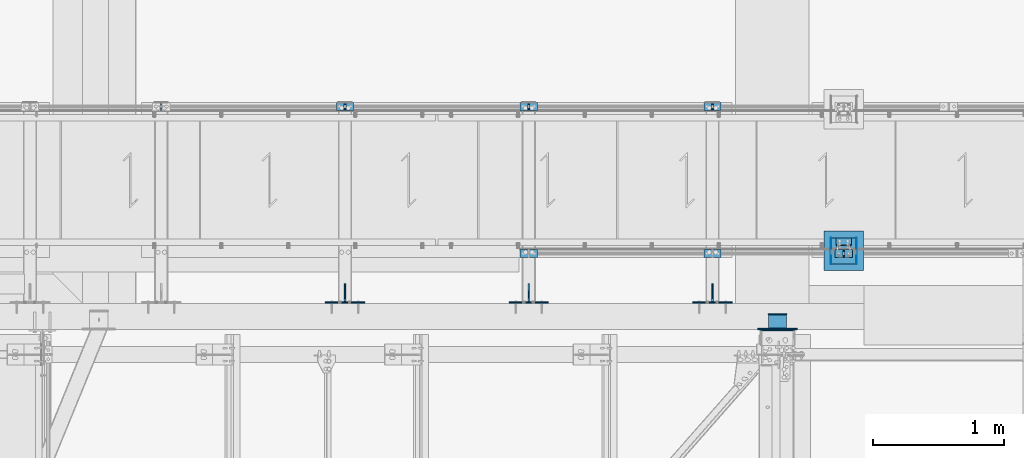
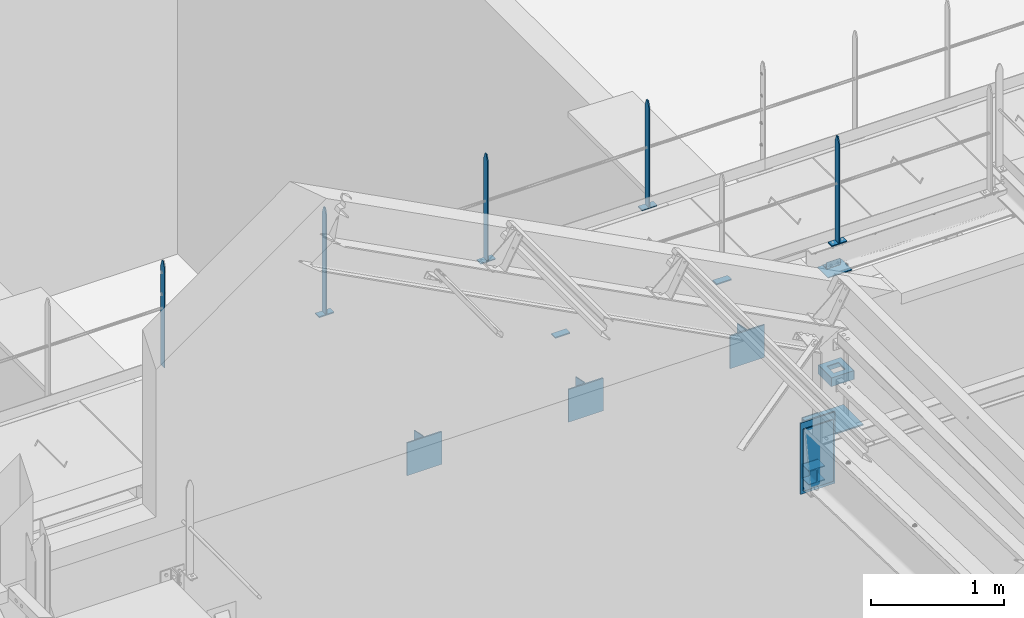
# One storey, part 97 of 362: 29 beams, 11 elements without a shape of their own.
"""IFC2X3 building model written with IfcOpenShell, lengths in millimetres."""

from ifc_helpers import new_model, si_unit, frame, origin_with_axes, origin_2d_with_axis, place, context, subcontext, project, spatial, polyline, rectangle, i_section, l_section, u_section, outline, extrude, boolean, clip, halfspace, material, type_object, element, aggregate, save


model = new_model("IFC2X3")

# Units and contexts
model_context = context("Model", 3, precision=1e-05, world=origin_with_axes())
body_context = subcontext(model_context, "Body", "Model", "MODEL_VIEW")
ifc_project = project(units=[si_unit("LENGTHUNIT", "METRE", prefix="MILLI"), si_unit("AREAUNIT", "SQUARE_METRE"), si_unit("VOLUMEUNIT", "CUBIC_METRE"), si_unit("MASSUNIT", "GRAM", prefix="KILO"), si_unit("TIMEUNIT", "SECOND"), si_unit("PLANEANGLEUNIT", "RADIAN"), si_unit("SOLIDANGLEUNIT", "STERADIAN"), si_unit("THERMODYNAMICTEMPERATUREUNIT", "DEGREE_CELSIUS"), si_unit("LUMINOUSINTENSITYUNIT", "LUMEN")], contexts=[model_context])

# Site, building, storey
site_placement = place(None, origin_with_axes())
site = spatial("IfcSite", under=ifc_project, at=site_placement, Name="Undefined", CompositionType="ELEMENT")
building_placement = place(site_placement, origin_with_axes())
building = spatial("IfcBuilding", under=site, at=building_placement, Name="Undefined", CompositionType="ELEMENT")
storey_placement = place(building_placement, origin_with_axes())
storey = spatial("IfcBuildingStorey", under=building, at=storey_placement, Name="Undefined", CompositionType="ELEMENT", Elevation=0.0)

# Assembly, beams
assembly_1_placement = place(storey_placement, origin_with_axes())
assembly_1 = element("IfcElementAssembly", 1, at=assembly_1_placement, inside=storey, Name="MAIN COURANTE", AssemblyPlace="NOTDEFINED", PredefinedType="NOTDEFINED")
ifc_material_1 = material(Name="Undefined/S235-E24")
beam_type_1 = type_object("IfcBeamType", Name="PL10*60", PredefinedType="NOTDEFINED")
beam_1_placement = place(assembly_1_placement, frame((20119.9961849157, 15970.0000882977, 8705.00000001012), z_axis=(0.0, -1.0, 0.0), x_axis=(-1.0, 0.0, 0.0)))
beam_1 = element("IfcBeam", 2, at=beam_1_placement, type_object=beam_type_1, material=ifc_material_1, Name="PLATINE", ObjectType="PL10*60", context=body_context, shape_type="SweptSolid", body=[
    extrude(rectangle(XDim=10.0, YDim=60.0, at=origin_2d_with_axis()), frame((130.0, 0.0, 0.0), z_axis=(-1.0, 0.0, 0.0), x_axis=(0.0, -1.0, 0.0)), (0.0, 0.0, 1.0), 130.0),
])
beam_2_placement = place(assembly_1_placement, frame((20054.9961849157, 15970.0000882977, 9677.59999847), z_axis=(0.0, 1.0, 0.0), x_axis=(0.0, 0.0, -1.0)))
beam_2 = element("IfcBeam", 3, at=beam_2_placement, type_object=beam_type_1, material=ifc_material_1, Name="MONTANT", ObjectType="PL10*60", context=body_context, shape_type="Clipping", body=[
    clip(clip(extrude(rectangle(XDim=10.0, YDim=60.0, at=origin_2d_with_axis()), frame((967.59999845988, 0.0, 0.0), z_axis=(-1.0, 0.0, 0.0), x_axis=(0.0, -1.0, 0.0)), (0.0, 0.0, 1.0), 967.6), halfspace(frame((-120.0, -5.0, -30.0), z_axis=(-0.316227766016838, 0.0, 0.948683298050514), x_axis=(0.0, 1.0, 0.0)), False)), halfspace(frame((60.0, -5.0, -30.0), z_axis=(-0.316227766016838, 0.0, -0.948683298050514), x_axis=(0.0, 1.0, 0.0)), False)),
])
beam_3_placement = place(assembly_1_placement, frame((19119.9961849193, 15970.0000882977, 8705.00000001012), z_axis=(0.0, -1.0, 0.0), x_axis=(-1.0, 0.0, 0.0)))
beam_3 = element("IfcBeam", 4, at=beam_3_placement, type_object=beam_type_1, material=ifc_material_1, Name="PLATINE", ObjectType="PL10*60", context=body_context, shape_type="SweptSolid", body=[
    extrude(rectangle(XDim=10.0, YDim=60.0, at=origin_2d_with_axis()), frame((130.0, 0.0, 0.0), z_axis=(-1.0, 0.0, 0.0), x_axis=(0.0, -1.0, 0.0)), (0.0, 0.0, 1.0), 130.0),
])
aggregate(assembly_1, [beam_1, beam_2, beam_3])

# Assembly, beam
assembly_2_placement = place(storey_placement, origin_with_axes())
assembly_2 = element("IfcElementAssembly", 5, at=assembly_2_placement, inside=storey, AssemblyPlace="NOTDEFINED", PredefinedType="NOTDEFINED")
beam_4_placement = place(assembly_2_placement, frame((17719.9961849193, 15970.0000882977, 8705.00000001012), z_axis=(0.0, -1.0, 0.0), x_axis=(-1.0, 0.0, 0.0)))
beam_4 = element("IfcBeam", 6, at=beam_4_placement, type_object=beam_type_1, material=ifc_material_1, Name="PLATINE", ObjectType="PL10*60", context=body_context, shape_type="SweptSolid", body=[
    extrude(rectangle(XDim=10.0, YDim=60.0, at=origin_2d_with_axis()), frame((130.0, 0.0, 0.0), z_axis=(-1.0, 0.0, 0.0), x_axis=(0.0, -1.0, 0.0)), (0.0, 0.0, 1.0), 130.0),
])
aggregate(assembly_2, [beam_4])

# Assembly, beams
assembly_3_placement = place(storey_placement, origin_with_axes())
assembly_3 = element("IfcElementAssembly", 7, at=assembly_3_placement, inside=storey, Name="MAIN COURANTE", AssemblyPlace="NOTDEFINED", PredefinedType="NOTDEFINED")
beam_5_placement = place(assembly_3_placement, frame((19119.9961849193, 17089.9938659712, 8705.00000001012), z_axis=(0.0, 1.0, 0.0), x_axis=(-1.0, 0.0, 0.0)))
beam_5 = element("IfcBeam", 8, at=beam_5_placement, type_object=beam_type_1, material=ifc_material_1, Name="PLATINE", ObjectType="PL10*60", context=body_context, shape_type="SweptSolid", body=[
    extrude(rectangle(XDim=10.0, YDim=60.0, at=origin_2d_with_axis()), frame((130.0, 0.0, 0.0), z_axis=(-1.0, 0.0, 0.0), x_axis=(0.0, -1.0, 0.0)), (0.0, 0.0, 1.0), 130.0),
])
beam_6_placement = place(assembly_3_placement, frame((17719.9961849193, 17089.9938659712, 8705.00000001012), z_axis=(0.0, 1.0, 0.0), x_axis=(-1.0, 0.0, 0.0)))
beam_6 = element("IfcBeam", 9, at=beam_6_placement, type_object=beam_type_1, material=ifc_material_1, Name="PLATINE", ObjectType="PL10*60", context=body_context, shape_type="SweptSolid", body=[
    extrude(rectangle(XDim=10.0, YDim=60.0, at=origin_2d_with_axis()), frame((130.0, 0.0, 0.0), z_axis=(-1.0, 0.0, 0.0), x_axis=(0.0, -1.0, 0.0)), (0.0, 0.0, 1.0), 130.0),
])
beam_7_placement = place(assembly_3_placement, frame((16319.9961849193, 17089.9938659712, 8705.00000001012), z_axis=(0.0, 1.0, 0.0), x_axis=(-1.0, 0.0, 0.0)))
beam_7 = element("IfcBeam", 10, at=beam_7_placement, type_object=beam_type_1, material=ifc_material_1, Name="PLATINE", ObjectType="PL10*60", context=body_context, shape_type="SweptSolid", body=[
    extrude(rectangle(XDim=10.0, YDim=60.0, at=origin_2d_with_axis()), frame((130.0, 0.0, 0.0), z_axis=(-1.0, 0.0, 0.0), x_axis=(0.0, -1.0, 0.0)), (0.0, 0.0, 1.0), 130.0),
])
beam_8_placement = place(assembly_3_placement, frame((16254.9961849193, 17089.9938659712, 9677.59999847), z_axis=(0.0, -1.0, 0.0), x_axis=(0.0, 0.0, -1.0)))
beam_8 = element("IfcBeam", 11, at=beam_8_placement, type_object=beam_type_1, material=ifc_material_1, Name="MONTANT", ObjectType="PL10*60", context=body_context, shape_type="Clipping", body=[
    clip(clip(extrude(rectangle(XDim=10.0, YDim=60.0, at=origin_2d_with_axis()), frame((967.59999845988, 0.0, 0.0), z_axis=(-1.0, 0.0, 0.0), x_axis=(0.0, -1.0, 0.0)), (0.0, 0.0, 1.0), 967.6), halfspace(frame((-120.0, 5.0, -30.0), z_axis=(-0.316227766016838, 0.0, 0.948683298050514), x_axis=(0.948683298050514, 0.0, 0.316227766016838)), False)), halfspace(frame((60.0, 5.0, -30.0), z_axis=(-0.316227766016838, 0.0, -0.948683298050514), x_axis=(-0.948683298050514, 0.0, 0.316227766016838)), False)),
])
beam_9_placement = place(assembly_3_placement, frame((17654.9961849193, 17089.9938659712, 9677.59999847), z_axis=(0.0, -1.0, 0.0), x_axis=(0.0, 0.0, -1.0)))
beam_9 = element("IfcBeam", 12, at=beam_9_placement, type_object=beam_type_1, material=ifc_material_1, Name="MONTANT", ObjectType="PL10*60", context=body_context, shape_type="Clipping", body=[
    clip(clip(extrude(rectangle(XDim=10.0, YDim=60.0, at=origin_2d_with_axis()), frame((967.59999845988, 0.0, 0.0), z_axis=(-1.0, 0.0, 0.0), x_axis=(0.0, -1.0, 0.0)), (0.0, 0.0, 1.0), 967.6), halfspace(frame((-120.0, 5.0, -30.0), z_axis=(-0.316227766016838, 0.0, 0.948683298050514), x_axis=(0.948683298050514, 0.0, 0.316227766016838)), False)), halfspace(frame((60.0, 5.0, -30.0), z_axis=(-0.316227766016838, 0.0, -0.948683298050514), x_axis=(-0.948683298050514, 0.0, 0.316227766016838)), False)),
])
beam_10_placement = place(assembly_3_placement, frame((19054.9961849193, 17089.9938659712, 9677.59999847), z_axis=(0.0, -1.0, 0.0), x_axis=(0.0, 0.0, -1.0)))
beam_10 = element("IfcBeam", 13, at=beam_10_placement, type_object=beam_type_1, material=ifc_material_1, Name="MONTANT", ObjectType="PL10*60", context=body_context, shape_type="Clipping", body=[
    clip(clip(extrude(rectangle(XDim=10.0, YDim=60.0, at=origin_2d_with_axis()), frame((967.59999845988, 0.0, 0.0), z_axis=(-1.0, 0.0, 0.0), x_axis=(0.0, -1.0, 0.0)), (0.0, 0.0, 1.0), 967.6), halfspace(frame((-120.0, 5.0, -30.0), z_axis=(-0.316227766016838, 0.0, 0.948683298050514), x_axis=(0.948683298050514, 0.0, 0.316227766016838)), False)), halfspace(frame((60.0, 5.0, -30.0), z_axis=(-0.316227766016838, 0.0, -0.948683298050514), x_axis=(-0.948683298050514, 0.0, 0.316227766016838)), False)),
])
aggregate(assembly_3, [beam_5, beam_6, beam_7, beam_8, beam_9, beam_10])

# Assembly, beam
assembly_4_placement = place(storey_placement, origin_with_axes())
assembly_4 = element("IfcElementAssembly", 14, at=assembly_4_placement, inside=storey, Name="CONSOLE", AssemblyPlace="NOTDEFINED", PredefinedType="NOTDEFINED")
beam_type_2 = type_object("IfcBeamType", Name="TOLE8*138", PredefinedType="NOTDEFINED")
beam_11_placement = place(assembly_4_placement, frame((19055.0007605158, 15622.0, 8175.0), z_axis=(-1.0, 0.0, 0.0), x_axis=(0.0, -1.0, 0.0)))
beam_11 = element("IfcBeam", 15, at=beam_11_placement, type_object=beam_type_2, material=ifc_material_1, Name="RAIDISSEUR CONSOLE", ObjectType="TOLE8*138", context=body_context, shape_type="SweptSolid", body=[
    extrude(outline(polyline([(0.0, 0.0), (19.9999999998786, -3.63797880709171e-12), (20.0, 300.0), (0.0, 300.0), (-118.0, 275.0), (-118.0, 155.0), (0.0, 0.0)])), frame((0.0, 0.0, -4.0), z_axis=(0.0, 0.0, 1.0), x_axis=(1.0, 0.0, 0.0)), (0.0, 0.0, 1.0), 8.0),
])

assembly_5_placement = place(storey_placement, origin_with_axes())
assembly_5 = element("IfcElementAssembly", 16, at=assembly_5_placement, inside=storey, Name="CONSOLE", AssemblyPlace="NOTDEFINED", PredefinedType="NOTDEFINED")
beam_12_placement = place(assembly_5_placement, frame((17655.0007605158, 15622.0, 8175.0), z_axis=(-1.0, 0.0, 0.0), x_axis=(0.0, -1.0, 0.0)))
beam_12 = element("IfcBeam", 17, at=beam_12_placement, type_object=beam_type_2, material=ifc_material_1, Name="RAIDISSEUR CONSOLE", ObjectType="TOLE8*138", context=body_context, shape_type="SweptSolid", body=[
    extrude(outline(polyline([(0.0, 0.0), (19.9999999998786, -3.63797880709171e-12), (20.0, 300.0), (0.0, 300.0), (-118.0, 275.0), (-118.0, 155.0), (0.0, 0.0)])), frame((0.0, 0.0, -4.0), z_axis=(0.0, 0.0, 1.0), x_axis=(1.0, 0.0, 0.0)), (0.0, 0.0, 1.0), 8.0),
])

assembly_6_placement = place(storey_placement, origin_with_axes())
assembly_6 = element("IfcElementAssembly", 18, at=assembly_6_placement, inside=storey, Name="CONSOLE", AssemblyPlace="NOTDEFINED", PredefinedType="NOTDEFINED")
beam_13_placement = place(assembly_6_placement, frame((16255.0007605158, 15622.0, 8175.0), z_axis=(-1.0, 0.0, 0.0), x_axis=(0.0, -1.0, 0.0)))
beam_13 = element("IfcBeam", 19, at=beam_13_placement, type_object=beam_type_2, material=ifc_material_1, Name="RAIDISSEUR CONSOLE", ObjectType="TOLE8*138", context=body_context, shape_type="SweptSolid", body=[
    extrude(outline(polyline([(0.0, 0.0), (19.9999999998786, -3.63797880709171e-12), (20.0, 300.0), (0.0, 300.0), (-118.0, 275.0), (-118.0, 155.0), (0.0, 0.0)])), frame((0.0, 0.0, -4.0), z_axis=(0.0, 0.0, 1.0), x_axis=(1.0, 0.0, 0.0)), (0.0, 0.0, 1.0), 8.0),
])

assembly_7_placement = place(storey_placement, origin_with_axes())
assembly_7 = element("IfcElementAssembly", 20, at=assembly_7_placement, inside=storey, AssemblyPlace="NOTDEFINED", PredefinedType="NOTDEFINED")
beam_type_3 = type_object("IfcBeamType", Name="PL12*300", PredefinedType="NOTDEFINED")
beam_14_placement = place(assembly_7_placement, frame((20205.0, 15840.0001225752, 7056.0), z_axis=(0.0, 0.0, -1.0), x_axis=(-1.0, 0.0, 0.0)))
beam_14 = element("IfcBeam", 21, at=beam_14_placement, type_object=beam_type_3, material=ifc_material_1, Name="PLATINE", ObjectType="PL12*300", context=body_context, shape_type="SweptSolid", body=[
    extrude(outline(polyline([(0.0, 0.0), (300.0, 0.0), (300.0, 300.0), (0.0, 300.0), (0.0, 0.0)])), frame((0.0, 0.0, -6.0), z_axis=(0.0, 0.0, 1.0), x_axis=(1.0, 0.0, 0.0)), (0.0, 0.0, 1.0), 12.0),
])

# Beam
beam_15_placement = place(assembly_4_placement, frame((19055.0007605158, 15595.99984642, 8475.0), z_axis=(1.0, 0.0, 0.0), x_axis=(0.0, 0.0, -1.0)))
beam_15 = element("IfcBeam", 22, at=beam_15_placement, type_object=beam_type_3, material=ifc_material_1, Name="PLATINE CONSOLE", ObjectType="PL12*300", context=body_context, shape_type="SweptSolid", body=[
    extrude(rectangle(XDim=12.0, YDim=300.0, at=origin_2d_with_axis()), frame((300.0, 0.0, 0.0), z_axis=(-1.0, 0.0, 0.0), x_axis=(0.0, -1.0, 0.0)), (0.0, 0.0, 1.0), 300.0),
])

aggregate(assembly_4, [beam_11, beam_15])

beam_16_placement = place(assembly_5_placement, frame((17655.0007605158, 15595.99984642, 8475.0), z_axis=(1.0, 0.0, 0.0), x_axis=(0.0, 0.0, -1.0)))
beam_16 = element("IfcBeam", 23, at=beam_16_placement, type_object=beam_type_3, material=ifc_material_1, Name="PLATINE CONSOLE", ObjectType="PL12*300", context=body_context, shape_type="SweptSolid", body=[
    extrude(rectangle(XDim=12.0, YDim=300.0, at=origin_2d_with_axis()), frame((300.0, 0.0, 0.0), z_axis=(-1.0, 0.0, 0.0), x_axis=(0.0, -1.0, 0.0)), (0.0, 0.0, 1.0), 300.0),
])

aggregate(assembly_5, [beam_12, beam_16])

beam_17_placement = place(assembly_6_placement, frame((16255.0007605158, 15595.99984642, 8475.0), z_axis=(1.0, 0.0, 0.0), x_axis=(0.0, 0.0, -1.0)))
beam_17 = element("IfcBeam", 24, at=beam_17_placement, type_object=beam_type_3, material=ifc_material_1, Name="PLATINE CONSOLE", ObjectType="PL12*300", context=body_context, shape_type="SweptSolid", body=[
    extrude(rectangle(XDim=12.0, YDim=300.0, at=origin_2d_with_axis()), frame((300.0, 0.0, 0.0), z_axis=(-1.0, 0.0, 0.0), x_axis=(0.0, -1.0, 0.0)), (0.0, 0.0, 1.0), 300.0),
])

aggregate(assembly_6, [beam_13, beam_17])

# Assembly, beam
assembly_8_placement = place(storey_placement, origin_with_axes())
assembly_8 = element("IfcElementAssembly", 25, at=assembly_8_placement, inside=storey, AssemblyPlace="NOTDEFINED", PredefinedType="NOTDEFINED")
beam_18_placement = place(assembly_8_placement, frame((19550.000000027, 15396.0000000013, 7624.99732627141), z_axis=(-1.0, 0.0, 0.0), x_axis=(0.0, 0.0, -1.0)))
beam_18 = element("IfcBeam", 26, at=beam_18_placement, type_object=beam_type_3, material=ifc_material_1, Name="PRESCELLEMENT", ObjectType="PL12*300", context=body_context, shape_type="SweptSolid", body=[
    extrude(rectangle(XDim=12.0, YDim=300.0, at=origin_2d_with_axis()), frame((654.999999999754, 0.0, 0.0), z_axis=(-1.0, 0.0, 0.0), x_axis=(0.0, -1.0, 0.0)), (0.0, 0.0, 1.0), 655.0),
])

assembly_9_placement = place(storey_placement, origin_with_axes())
assembly_9 = element("IfcElementAssembly", 27, at=assembly_9_placement, inside=storey, Name="MAIN COURANTE", AssemblyPlace="NOTDEFINED", PredefinedType="NOTDEFINED")
beam_type_4 = type_object("IfcBeamType", Name="PL5*60", PredefinedType="NOTDEFINED")
beam_19_placement = place(assembly_9_placement, frame((14852.4961849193, 17089.9938659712, 9677.59999847), z_axis=(0.0, -1.0, 0.0), x_axis=(0.0, 0.0, -1.0)))
beam_19 = element("IfcBeam", 28, at=beam_19_placement, type_object=beam_type_4, material=ifc_material_1, Name="MONTANT", ObjectType="PL5*60", context=body_context, shape_type="Clipping", body=[
    clip(clip(extrude(rectangle(XDim=5.0, YDim=60.0, at=origin_2d_with_axis()), frame((967.59999845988, 0.0, 0.0), z_axis=(-1.0, 0.0, 0.0), x_axis=(0.0, -1.0, 0.0)), (0.0, 0.0, 1.0), 967.6), halfspace(frame((-120.0, 5.0, -30.0), z_axis=(-0.316227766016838, 0.0, 0.948683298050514), x_axis=(0.948683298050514, 0.0, 0.316227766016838)), False)), halfspace(frame((60.0, 5.0, -30.0), z_axis=(-0.316227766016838, 0.0, -0.948683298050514), x_axis=(-0.948683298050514, 0.0, 0.316227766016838)), False)),
])
aggregate(assembly_9, [beam_19])

# Beam
beam_type_5 = type_object("IfcBeamType", Name="PL8*160", PredefinedType="NOTDEFINED")
beam_20_placement = place(assembly_7_placement, frame((20160.0, 15930.0006414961, 8436.00011661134), z_axis=(0.0, 0.0, -1.0), x_axis=(-1.0, 0.0, 0.0)))
beam_20 = element("IfcBeam", 29, at=beam_20_placement, type_object=beam_type_5, material=ifc_material_1, Name="PLATINE", ObjectType="PL8*160", context=body_context, shape_type="SweptSolid", body=[
    extrude(outline(polyline([(0.0, 0.0), (210.0, 0.0), (210.0, 159.999481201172), (0.0, 159.999481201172), (0.0, 0.0)])), frame((0.0, 0.0, -4.0), z_axis=(0.0, 0.0, 1.0), x_axis=(1.0, 0.0, 0.0)), (0.0, 0.0, 1.0), 8.0),
])

beam_type_6 = type_object("IfcBeamType", Name="PL4*80", PredefinedType="NOTDEFINED")
beam_21_placement = place(assembly_7_placement, frame((20153.0, 16090.0001225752, 7500.0), z_axis=(0.0, 0.0, 1.0), x_axis=(0.0, -1.0, 0.0)))
beam_21 = element("IfcBeam", 30, at=beam_21_placement, type_object=beam_type_6, material=ifc_material_1, Name="BORD COLLERETTE", ObjectType="PL4*80", context=body_context, shape_type="SweptSolid", body=[
    extrude(rectangle(XDim=4.0, YDim=80.0, at=origin_2d_with_axis()), frame((200.0, 0.0, 0.0), z_axis=(-1.0, 0.0, 0.0), x_axis=(0.0, -1.0, 0.0)), (0.0, 0.0, 1.0), 200.0),
])

beam_22_placement = place(assembly_7_placement, frame((19957.0, 16090.0001225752, 7500.0), z_axis=(0.0, 0.0, 1.0), x_axis=(0.0, -1.0, 0.0)))
beam_22 = element("IfcBeam", 31, at=beam_22_placement, type_object=beam_type_6, material=ifc_material_1, Name="BORD COLLERETTE", ObjectType="PL4*80", context=body_context, shape_type="SweptSolid", body=[
    extrude(rectangle(XDim=4.0, YDim=80.0, at=origin_2d_with_axis()), frame((200.0, 0.0, 0.0), z_axis=(-1.0, 0.0, 0.0), x_axis=(0.0, -1.0, 0.0)), (0.0, 0.0, 1.0), 200.0),
])

beam_type_7 = type_object("IfcBeamType", Name="UPF-200*80*4", PredefinedType="NOTDEFINED")
beam_23_placement = place(assembly_7_placement, frame((20151.0, 15990.0001225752, 7500.0), z_axis=(0.0, 1.0, 0.0), x_axis=(-1.0, 0.0, 0.0)))
beam_23 = element("IfcBeam", 32, at=beam_23_placement, type_object=beam_type_7, material=ifc_material_1, Name="COLLERETTE", ObjectType="UPF-200*80*4", context=body_context, shape_type="CSG", body=[
    boolean("DIFFERENCE", extrude(u_section(Depth=200.0, FlangeWidth=80.0, WebThickness=4.0, FlangeThickness=4.0, at=origin_2d_with_axis()), frame((192.0, 0.0, 0.0), z_axis=(-1.0, 0.0, 0.0), x_axis=(0.0, -1.0, 0.0)), (0.0, 0.0, 1.0), 192.0), extrude(outline(polyline([(0.0, 0.0), (101.0, 0.0), (101.0, 101.0), (0.0, 101.0), (0.0, 0.0)])), frame((146.5, -42.5, 50.5), z_axis=(0.0, 1.0, 0.0), x_axis=(0.0, 0.0, -1.0)), (0.0, 0.0, 1.0), 85.0)),
])

aggregate(assembly_7, [beam_20, beam_21, beam_22, beam_23, beam_14])

# Assembly, beam
assembly_10_placement = place(storey_placement, origin_with_axes())
assembly_10 = element("IfcElementAssembly", 33, at=assembly_10_placement, inside=storey, AssemblyPlace="NOTDEFINED", PredefinedType="NOTDEFINED")
beam_type_8 = type_object("IfcBeamType", Name="L60*6", PredefinedType="NOTDEFINED")
beam_24_placement = place(assembly_10_placement, frame((20115.0, 16060.0001225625, 8470.0), z_axis=(0.0, 0.0, 1.0), x_axis=(-1.0, 0.0, 0.0)))
beam_24 = element("IfcBeam", 34, at=beam_24_placement, type_object=beam_type_8, material=ifc_material_1, Name="ATTACHE", ObjectType="L60*6", context=body_context, shape_type="SweptSolid", body=[
    extrude(l_section(Depth=60.0, Width=60.0, Thickness=6.0, FilletRadius=8.0, EdgeRadius=4.0, at=origin_2d_with_axis()), frame((120.0, 0.0, 0.0), z_axis=(-1.0, 0.0, 0.0), x_axis=(0.0, -1.0, 0.0)), (0.0, 0.0, 1.0), 120.0),
])
aggregate(assembly_10, [beam_24])

# Beam
beam_type_9 = type_object("IfcBeamType", Name="PL10*140", PredefinedType="NOTDEFINED")
beam_25_placement = place(assembly_8_placement, frame((19550.0000000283, 15507.0000000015, 7151.49732627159), z_axis=(-1.0, 0.0, 0.0), x_axis=(0.0, 0.0, -1.0)))
beam_25 = element("IfcBeam", 35, at=beam_25_placement, type_object=beam_type_9, material=ifc_material_1, Name="PLAT", ObjectType="PL10*140", context=body_context, shape_type="SweptSolid", body=[
    extrude(rectangle(XDim=10.0, YDim=140.0, at=origin_2d_with_axis()), frame((132.999999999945, 0.0, 0.0), z_axis=(-1.0, 0.0, 0.0), x_axis=(0.0, -1.0, 0.0)), (0.0, 0.0, 1.0), 133.0),
])

beam_26_placement = place(assembly_8_placement, frame((19550.0000000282, 15507.0000000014, 7576.49732627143), z_axis=(-1.0, 0.0, 0.0), x_axis=(0.0, 0.0, -1.0)))
beam_26 = element("IfcBeam", 36, at=beam_26_placement, type_object=beam_type_9, material=ifc_material_1, Name="PLAT", ObjectType="PL10*140", context=body_context, shape_type="SweptSolid", body=[
    extrude(rectangle(XDim=10.0, YDim=140.0, at=origin_2d_with_axis()), frame((132.999999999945, 0.0, 0.0), z_axis=(-1.0, 0.0, 0.0), x_axis=(0.0, -1.0, 0.0)), (0.0, 0.0, 1.0), 133.0),
])

ifc_material_2 = material(Name="Undefined/S275-E28")
beam_type_10 = type_object("IfcBeamType", Name="HEA140", PredefinedType="NOTDEFINED")
beam_27_placement = place(assembly_8_placement, frame((19550.0000000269, 15402.0000000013, 7084.99732627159), z_axis=(0.0, 0.0, 1.0), x_axis=(0.0, 1.0, 0.0)))
beam_27 = element("IfcBeam", 37, at=beam_27_placement, type_object=beam_type_10, material=ifc_material_2, Name="BECHE", ObjectType="HEA140", context=body_context, shape_type="SweptSolid", body=[
    extrude(i_section(OverallWidth=140.0, OverallDepth=133.0, WebThickness=5.5, FlangeThickness=8.5, FilletRadius=12.0, at=origin_2d_with_axis()), frame((99.9999999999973, -1.63709046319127e-11, 7.73070496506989e-12), z_axis=(-1.0, 0.0, 0.0), x_axis=(0.0, -1.0, 0.0)), (0.0, 0.0, 1.0), 100.0),
])

beam_28_placement = place(assembly_8_placement, frame((19550.000000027, 15402.0000000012, 7509.99732627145), z_axis=(0.0, 0.0, 1.0), x_axis=(0.0, 1.0, 0.0)))
beam_28 = element("IfcBeam", 38, at=beam_28_placement, type_object=beam_type_10, material=ifc_material_2, Name="BECHE", ObjectType="HEA140", context=body_context, shape_type="SweptSolid", body=[
    extrude(i_section(OverallWidth=140.0, OverallDepth=133.0, WebThickness=5.5, FlangeThickness=8.5, FilletRadius=12.0, at=origin_2d_with_axis()), frame((99.9999999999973, -1.63709046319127e-11, 7.73070496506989e-12), z_axis=(-1.0, 0.0, 0.0), x_axis=(0.0, -1.0, 0.0)), (0.0, 0.0, 1.0), 100.0),
])

aggregate(assembly_8, [beam_25, beam_27, beam_26, beam_28, beam_18])

# Assembly, beam
assembly_11_placement = place(storey_placement, origin_with_axes())
assembly_11 = element("IfcElementAssembly", 39, at=assembly_11_placement, inside=storey, AssemblyPlace="NOTDEFINED", PredefinedType="NOTDEFINED")
beam_type_11 = type_object("IfcBeamType", Name="PL10*260", PredefinedType="NOTDEFINED")
beam_29_placement = place(assembly_11_placement, frame((19550.0000000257, 15385.0000000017, 7564.99732627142), z_axis=(-1.0, 0.0, 0.0), x_axis=(0.0, 0.0, -1.0)))
beam_29 = element("IfcBeam", 40, at=beam_29_placement, type_object=beam_type_11, material=ifc_material_1, Name="SABOT", ObjectType="PL10*260", context=body_context, shape_type="SweptSolid", body=[
    extrude(rectangle(XDim=10.0, YDim=260.0, at=origin_2d_with_axis()), frame((564.999999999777, 0.0, 0.0), z_axis=(-1.0, 0.0, 0.0), x_axis=(0.0, -1.0, 0.0)), (0.0, 0.0, 1.0), 565.0),
])
aggregate(assembly_11, [beam_29])

save(model, "model.ifc")
